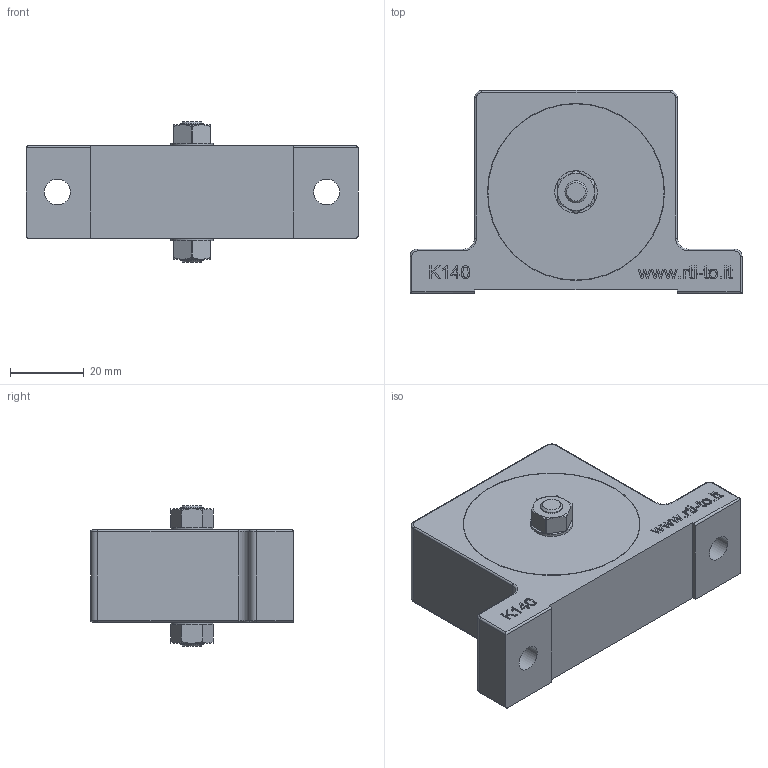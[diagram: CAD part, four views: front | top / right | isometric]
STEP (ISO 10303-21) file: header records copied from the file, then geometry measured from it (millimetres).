
FILE_DESCRIPTION((''),'2;1');
FILE_NAME('D:\UFFICIO TECNICO\PROGETTI PER PROTOTIPI\VIBRATORE - K140\VIBR. K140.stp','2015-09-14T12:14:33',('Piero'),(''),'Autodesk Inventor 2011','Autodesk Inventor 2011','');
FILE_SCHEMA(('CONFIG_CONTROL_DESIGN'));
Length unit declared in the file: millimetre
Products named in the file (1): K140
Bounding box: 90 x 55 x 38 mm (x, y, z)
Volume: 83642.6 mm3; surface area: 16946.8 mm2
Topology: 1 solids, 1 shells, 336 faces, 875 edges, 571 vertices
Faces by surface type: plane 220, cylinder 47, bspline 41, cone 16, torus 12
Full cylindrical faces by diameter (mm): 6 x2, 7 x2, 8.566 x2, 11.5 x2, 47.8 x2, 48 x2
Entity records: 10280 total; most frequent: CARTESIAN_POINT 2343, ORIENTED_EDGE 1698, DIRECTION 1459, EDGE_CURVE 849, VECTOR 615, LINE 615, VERTEX_POINT 561, AXIS2_PLACEMENT_3D 422
